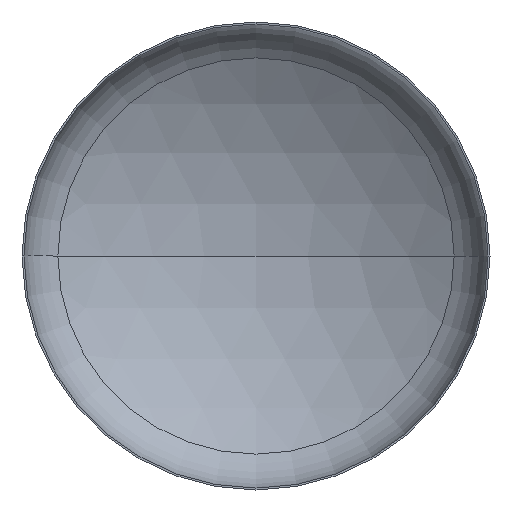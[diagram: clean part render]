
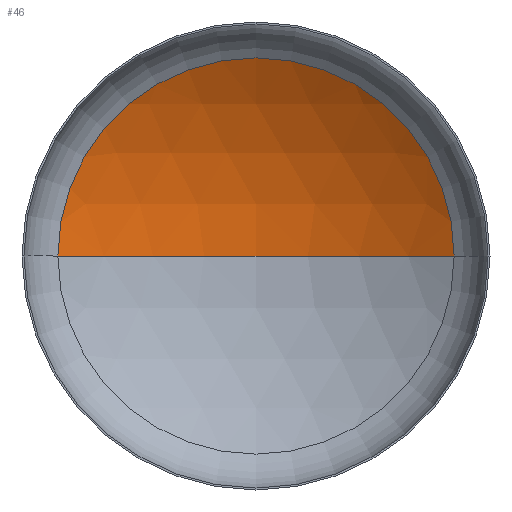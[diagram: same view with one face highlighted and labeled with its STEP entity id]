
A CAD part, front view. The second image highlights one B-rep face of the part: STEP entity #46.
In plain terms, the highlighted spherical face has radius 6000 mm.
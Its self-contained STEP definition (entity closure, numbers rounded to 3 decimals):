
#13 = VERTEX_POINT ( 'NONE', #245 ) ;
#27 = CARTESIAN_POINT ( 'NONE',  ( 3175.232, 1080.01, 0. ) ) ;
#29 = AXIS2_PLACEMENT_3D ( 'NONE', #319, #152, #44 ) ;
#37 = ORIENTED_EDGE ( 'NONE', *, *, #375, .T. ) ;
#44 = DIRECTION ( 'NONE',  ( -1., 0., 0. ) ) ;
#46 = ADVANCED_FACE ( 'NONE', ( #277 ), #145, .F. ) ;
#53 = VERTEX_POINT ( 'NONE', #27 ) ;
#73 = AXIS2_PLACEMENT_3D ( 'NONE', #323, #219, #220 ) ;
#90 = ORIENTED_EDGE ( 'NONE', *, *, #190, .F. ) ;
#96 = CIRCLE ( 'NONE', #73, 3175.232 ) ;
#131 = EDGE_LOOP ( 'NONE', ( #90, #357, #37 ) ) ;
#134 = VERTEX_POINT ( 'NONE', #334 ) ;
#145 = SPHERICAL_SURFACE ( 'NONE', #345, 6000. ) ;
#152 = DIRECTION ( 'NONE',  ( 0., 0., -1. ) ) ;
#178 = DIRECTION ( 'NONE',  ( 1., 0., 0. ) ) ;
#181 = DIRECTION ( 'NONE',  ( 0., 0., 1. ) ) ;
#188 = DIRECTION ( 'NONE',  ( -1., 0., 0. ) ) ;
#190 = EDGE_CURVE ( 'NONE', #13, #134, #200, .T. ) ;
#194 = DIRECTION ( 'NONE',  ( 0., 0., -1. ) ) ;
#200 = CIRCLE ( 'NONE', #397, 6000. ) ;
#211 = CARTESIAN_POINT ( 'NONE',  ( 0., -4010.952, 0. ) ) ;
#219 = DIRECTION ( 'NONE',  ( 0., -1., 0. ) ) ;
#220 = DIRECTION ( 'NONE',  ( 1., 0., 0. ) ) ;
#245 = CARTESIAN_POINT ( 'NONE',  ( 0., 1989.048, 0. ) ) ;
#272 = CARTESIAN_POINT ( 'NONE',  ( 0., -4010.952, 0. ) ) ;
#277 = FACE_OUTER_BOUND ( 'NONE', #131, .T. ) ;
#319 = CARTESIAN_POINT ( 'NONE',  ( 0., -4010.952, 0. ) ) ;
#323 = CARTESIAN_POINT ( 'NONE',  ( 0., 1080.01, 0. ) ) ;
#334 = CARTESIAN_POINT ( 'NONE',  ( -3175.232, 1080.01, 0. ) ) ;
#336 = CIRCLE ( 'NONE', #29, 6000. ) ;
#345 = AXIS2_PLACEMENT_3D ( 'NONE', #211, #194, #188 ) ;
#357 = ORIENTED_EDGE ( 'NONE', *, *, #389, .T. ) ;
#375 = EDGE_CURVE ( 'NONE', #53, #134, #96, .T. ) ;
#389 = EDGE_CURVE ( 'NONE', #13, #53, #336, .T. ) ;
#397 = AXIS2_PLACEMENT_3D ( 'NONE', #272, #181, #178 ) ;
